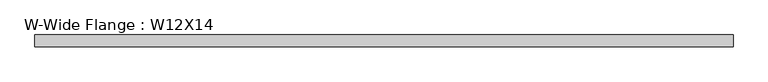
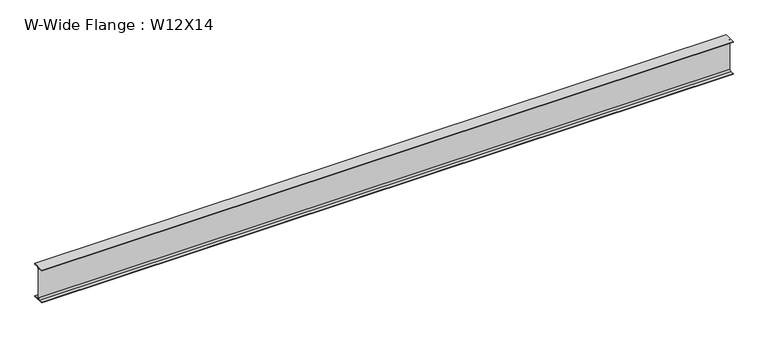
"""IFC4 building model written with IfcOpenShell, lengths in millimetres: beam geometry, W-Wide Flange : W12X14."""

from ifc_helpers import new_model, si_unit, point, frame, frame_2d, origin, place, context, project, spatial, polyline, circle_curve, trimmed, segment, composite_curve, outline, extrude, source, transform, mapped, element, save


def w_wide_flange_w12x14_92a546e2(model_context):
    return source(origin(), model_context, "Body", "SweptSolid", [
        extrude(outline(composite_curve([segment(polyline([(50.419, -145.415), (50.419, -151.13), (-50.419, -151.13), (-50.419, -145.415), (-15.875, -145.415)]), True, "CONTINUOUS"), segment(trimmed(circle_curve(frame_2d((-15.875, -132.08)), 13.335), [point((-15.875, -145.415))], [point((-2.54, -132.08))], True, "CARTESIAN"), True, "CONTINUOUS"), segment(polyline([(-2.54, -132.08), (-2.54, 132.08)]), True, "CONTINUOUS"), segment(trimmed(circle_curve(frame_2d((-15.875, 132.08)), 13.335), [point((-2.54, 132.08))], [point((-15.875, 145.415))], True, "CARTESIAN"), True, "CONTINUOUS"), segment(polyline([(-15.875, 145.415), (-50.419, 145.415), (-50.419, 151.13), (50.419, 151.13), (50.419, 145.415), (15.875, 145.415)]), True, "CONTINUOUS"), segment(trimmed(circle_curve(frame_2d((15.875, 132.08)), 13.335), [point((15.875, 145.415))], [point((2.54, 132.08))], True, "CARTESIAN"), True, "CONTINUOUS"), segment(polyline([(2.54, 132.08), (2.54, -132.08)]), True, "CONTINUOUS"), segment(trimmed(circle_curve(frame_2d((15.875, -132.08)), 13.335), [point((2.54, -132.08))], [point((15.875, -145.415))], True, "CARTESIAN"), True, "CONTINUOUS"), segment(polyline([(15.875, -145.415), (50.419, -145.415)]), True, "CONTINUOUS")], self_intersect=False)), frame((-2965.45, 0.0, 0.0), z_axis=(1.0, 0.0, 0.0), x_axis=(0.0, 1.0, 0.0)), (0.0, 0.0, 1.0), 6013.45),
    ])


if __name__ == "__main__":
    model = new_model("IFC4")
    model_context = context("Model", 3, world=origin())
    ifc_project = project(units=[si_unit("LENGTHUNIT", "METRE", prefix="MILLI")], contexts=[model_context])
    site = spatial("IfcSite", under=ifc_project)
    building = spatial("IfcBuilding", under=site)
    placement = place(None, origin())
    w_wide_flange_w12x14_shape = w_wide_flange_w12x14_92a546e2(model_context)
    element("IfcBeam", 1, ObjectType="W-Wide Flange : W12X14", at=placement, inside=building, context=model_context, shape_type="MappedRepresentation", body=[
        mapped(w_wide_flange_w12x14_shape, transform((0.0, 0.0, 0.0), x_axis=(1.0, 0.0, 0.0), y_axis=(0.0, 1.0, 0.0), z_axis=(0.0, 0.0, 1.0))),
    ])
    save(model, "model.ifc")
